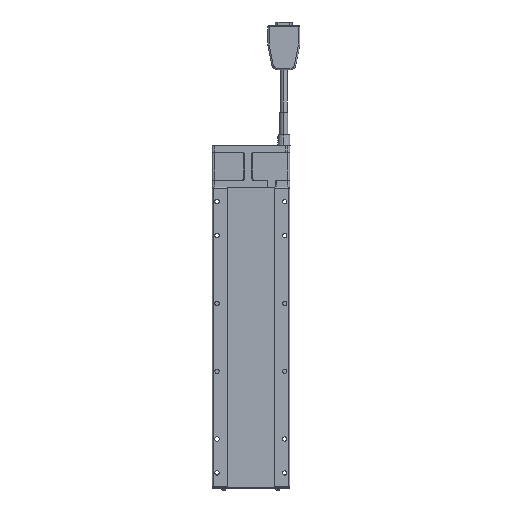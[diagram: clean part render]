
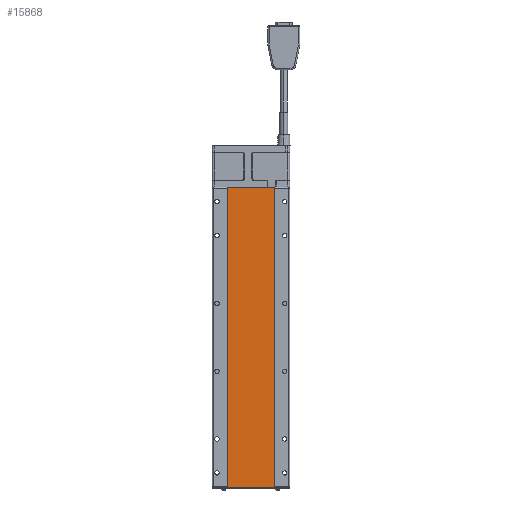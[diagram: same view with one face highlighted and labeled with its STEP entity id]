
A CAD part, front view. The second image highlights one B-rep face of the part: STEP entity #15868.
In plain terms, the highlighted planar face has unit normal (0, -1, 0).
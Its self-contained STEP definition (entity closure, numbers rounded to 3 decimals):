
#624 = LINE ( 'NONE', #126898, #148344 ) ;
#2208 = ORIENTED_EDGE ( 'NONE', *, *, #63858, .T. ) ;
#5429 = VERTEX_POINT ( 'NONE', #18390 ) ;
#5853 = VECTOR ( 'NONE', #105136, 1000. ) ;
#11765 = VECTOR ( 'NONE', #34974, 1000. ) ;
#13820 = PLANE ( 'NONE',  #120573 ) ;
#13939 = ORIENTED_EDGE ( 'NONE', *, *, #88949, .T. ) ;
#15868 = ADVANCED_FACE ( 'NONE', ( #118650 ), #13820, .F. ) ;
#18390 = CARTESIAN_POINT ( 'NONE',  ( 24.3, 0.5, 0.2 ) ) ;
#24147 = LINE ( 'NONE', #139687, #88362 ) ;
#31286 = VERTEX_POINT ( 'NONE', #99347 ) ;
#34974 = DIRECTION ( 'NONE',  ( -1., 0., 0. ) ) ;
#46466 = CARTESIAN_POINT ( 'NONE',  ( -24.3, 0.5, 309.8 ) ) ;
#55945 = EDGE_CURVE ( 'NONE', #62894, #115774, #95128, .T. ) ;
#58982 = DIRECTION ( 'NONE',  ( -1., 0., 0. ) ) ;
#62894 = VERTEX_POINT ( 'NONE', #89409 ) ;
#63858 = EDGE_CURVE ( 'NONE', #115774, #5429, #24147, .T. ) ;
#71207 = DIRECTION ( 'NONE',  ( 0., 1., 0. ) ) ;
#76199 = EDGE_LOOP ( 'NONE', ( #150890, #2208, #104841, #13939 ) ) ;
#88362 = VECTOR ( 'NONE', #92249, 1000. ) ;
#88949 = EDGE_CURVE ( 'NONE', #31286, #62894, #128299, .T. ) ;
#89409 = CARTESIAN_POINT ( 'NONE',  ( -24.3, 0.5, 309.8 ) ) ;
#92249 = DIRECTION ( 'NONE',  ( 1., 0., 0. ) ) ;
#94900 = CARTESIAN_POINT ( 'NONE',  ( -24.3, 0.5, 309.8 ) ) ;
#95128 = LINE ( 'NONE', #140315, #5853 ) ;
#99347 = CARTESIAN_POINT ( 'NONE',  ( 24.3, 0.5, 309.8 ) ) ;
#104841 = ORIENTED_EDGE ( 'NONE', *, *, #119430, .T. ) ;
#105136 = DIRECTION ( 'NONE',  ( 0., 0., -1. ) ) ;
#115774 = VERTEX_POINT ( 'NONE', #128285 ) ;
#118650 = FACE_OUTER_BOUND ( 'NONE', #76199, .T. ) ;
#119430 = EDGE_CURVE ( 'NONE', #5429, #31286, #624, .T. ) ;
#120573 = AXIS2_PLACEMENT_3D ( 'NONE', #94900, #71207, #58982 ) ;
#126898 = CARTESIAN_POINT ( 'NONE',  ( 24.3, 0.5, 0.2 ) ) ;
#128285 = CARTESIAN_POINT ( 'NONE',  ( -24.3, 0.5, 0.2 ) ) ;
#128299 = LINE ( 'NONE', #46466, #11765 ) ;
#129154 = DIRECTION ( 'NONE',  ( 0., 0., 1. ) ) ;
#139687 = CARTESIAN_POINT ( 'NONE',  ( -24.3, 0.5, 0.2 ) ) ;
#140315 = CARTESIAN_POINT ( 'NONE',  ( -24.3, 0.5, 0.2 ) ) ;
#148344 = VECTOR ( 'NONE', #129154, 1000. ) ;
#150890 = ORIENTED_EDGE ( 'NONE', *, *, #55945, .T. ) ;
